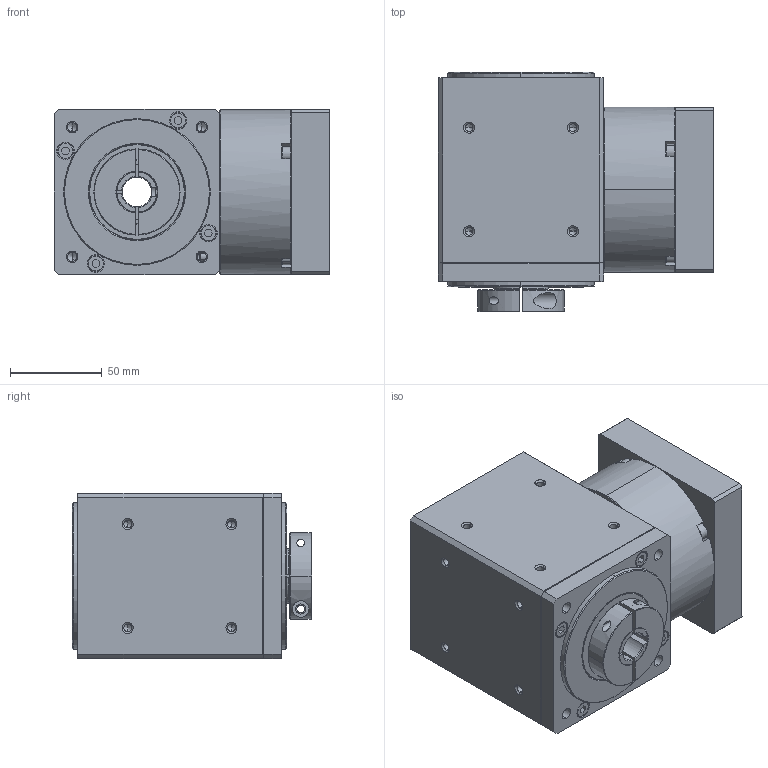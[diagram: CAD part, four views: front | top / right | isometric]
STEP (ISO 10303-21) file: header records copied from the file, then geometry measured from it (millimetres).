
FILE_DESCRIPTION (( 'STEP AP203' ), '1' );
FILE_NAME ('RLHS-090-005.STEP', '2012-05-29T20:09:55', ( 'render' ), ( '' ), 'SwSTEP 2.0', 'SolidWorks 2011', '' );
FILE_SCHEMA (( 'CONFIG_CONTROL_DESIGN' ));
Products named in the file (1): RLHS-090-005
Bounding box: 150 x 130.5 x 90 mm (x, y, z)
Volume: 746038.5 mm3; surface area: 232634 mm2
Topology: 34 solids, 34 shells, 1245 faces, 2951 edges, 1798 vertices
Faces by surface type: cylinder 396, cone 394, plane 384, bspline 71
Entity records: 45975 total; most frequent: CARTESIAN_POINT 17708, DIRECTION 5979, ORIENTED_EDGE 5730, EDGE_CURVE 2865, AXIS2_PLACEMENT_3D 2317, VERTEX_POINT 1798, EDGE_LOOP 1439, LINE 1345
